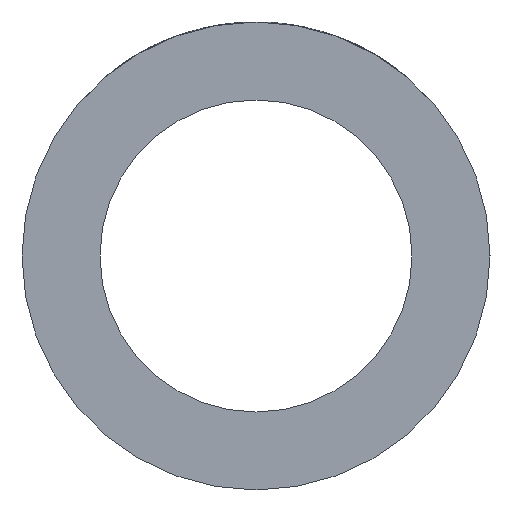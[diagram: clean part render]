
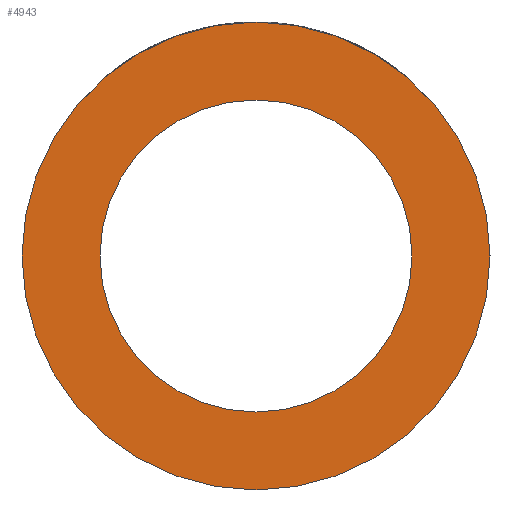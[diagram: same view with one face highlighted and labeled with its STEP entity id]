
A CAD part, left-side view. The second image highlights one B-rep face of the part: STEP entity #4943.
In plain terms, the highlighted planar face has unit normal (-1, 0, 0).
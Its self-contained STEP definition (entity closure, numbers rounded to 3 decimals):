
#115=PLANE('',#5328);
#339=CIRCLE('',#5329,45.);
#340=CIRCLE('',#5330,30.);
#1463=ORIENTED_EDGE('',*,*,#2948,.F.);
#1464=ORIENTED_EDGE('',*,*,#2949,.T.);
#2948=EDGE_CURVE('',#3691,#3691,#339,.T.);
#2949=EDGE_CURVE('',#3692,#3692,#340,.T.);
#3691=VERTEX_POINT('',#8075);
#3692=VERTEX_POINT('',#8077);
#4196=EDGE_LOOP('',(#1463));
#4197=EDGE_LOOP('',(#1464));
#4563=FACE_BOUND('',#4196,.T.);
#4564=FACE_BOUND('',#4197,.T.);
#4943=ADVANCED_FACE('',(#4563,#4564),#115,.F.);
#5328=AXIS2_PLACEMENT_3D('',#8073,#5836,#5837);
#5329=AXIS2_PLACEMENT_3D('',#8074,#5838,#5839);
#5330=AXIS2_PLACEMENT_3D('',#8076,#5840,#5841);
#5836=DIRECTION('',(1.,0.,0.));
#5837=DIRECTION('',(0.,0.,-1.));
#5838=DIRECTION('',(1.,0.,0.));
#5839=DIRECTION('',(0.,0.,-1.));
#5840=DIRECTION('',(1.,0.,0.));
#5841=DIRECTION('',(0.,0.,-1.));
#8073=CARTESIAN_POINT('',(-104.5,0.,0.));
#8074=CARTESIAN_POINT('',(-104.5,0.,0.));
#8075=CARTESIAN_POINT('',(-104.5,0.,-45.));
#8076=CARTESIAN_POINT('',(-104.5,0.,0.));
#8077=CARTESIAN_POINT('',(-104.5,0.,-30.));
